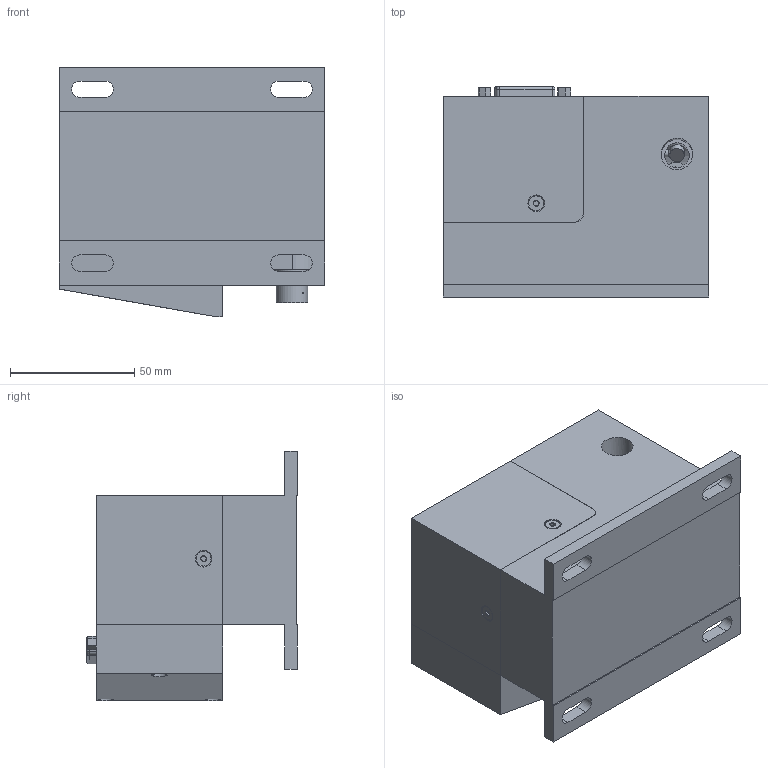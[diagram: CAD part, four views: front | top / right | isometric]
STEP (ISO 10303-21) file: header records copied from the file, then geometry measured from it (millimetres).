
FILE_DESCRIPTION(/* description */ (''),/* implementation_level */ '2;1');
FILE_NAME(/* name */ 'C:\Users\strothej\Documents\ActualDocuments\MicroscopeParts\TwoPhotonSystem\ScanningMechanics\v30\Drawings\Scan_Block_Assembly.stp',/* time_stamp */ '2017-06-29T13:39:09-07:00',/* author */ ('strothej'),/* organization */ (''),/* preprocessor_version */ 'ST-DEVELOPER v16.1',/* originating_system */ 'Autodesk Inventor 2016',/* authorisation */ '');
FILE_SCHEMA (('AUTOMOTIVE_DESIGN { 1 0 10303 214 3 1 1 }'));
Length unit declared in the file: inch
Products named in the file (13): Scan_Block; Scan_Block_Electrical_Cover; Galvo_CRS8khz_Body; Galvo_CRS8khz_Mirror; Galvo_CRS8khz_Assembly; Galvo_6210H_Body; Galvo_6210H_Mirror; Galvo_6210H_Assembly.ipt; Scan_Block_CRS_Galvo_Cover; M3_Washer; M3_16mm_SHCS; M3_10mm_Hex_Flat_Head; Scan_Block_Assembly
Assembly tree (15 placements, depth 3):
  Scan_Block_Assembly
    Scan_Block
    Scan_Block_Electrical_Cover
    Galvo_CRS8khz_Assembly
      Galvo_CRS8khz_Body
      Galvo_CRS8khz_Mirror
    Galvo_6210H_Assembly.ipt
      Galvo_6210H_Body
      Galvo_6210H_Mirror
    Scan_Block_CRS_Galvo_Cover
    M3_Washer
    M3_16mm_SHCS  x3
    M3_10mm_Hex_Flat_Head  x2
Bounding box: 106.68 x 84.8 x 100.33 mm (x, y, z)
Volume: 416975.4 mm3; surface area: 98105.6 mm2
Topology: 14 solids, 14 shells, 874 faces, 2157 edges, 1402 vertices
Faces by surface type: plane 612, cylinder 160, cone 77, bspline 17, torus 6, sphere 2
Full cylindrical faces by diameter (mm): 0.1 x1, 0.127 x1, 0.254 x1, 0.5 x1, 1.6 x2, 1.651 x1, 2.088 x2, 2.3 x2, 2.4 x3, 2.464 x12, 2.845 x2, 3 x4, 3.2 x6, 3.264 x2, 3.4 x1, 3.581 x5, 3.861 x1, 5.5 x3, 6 x2, 6.096 x2, 6.5 x3, 7 x1, 9.5 x1, 10 x2, 12.7 x2, 15.875 x2, 27.94 x1, 30.5 x1
Entity records: 32679 total; most frequent: CARTESIAN_POINT 13263, DIRECTION 3757, ORIENTED_EDGE 3692, EDGE_CURVE 1846, LINE 1471, VECTOR 1471, VERTEX_POINT 1256, AXIS2_PLACEMENT_3D 1143
